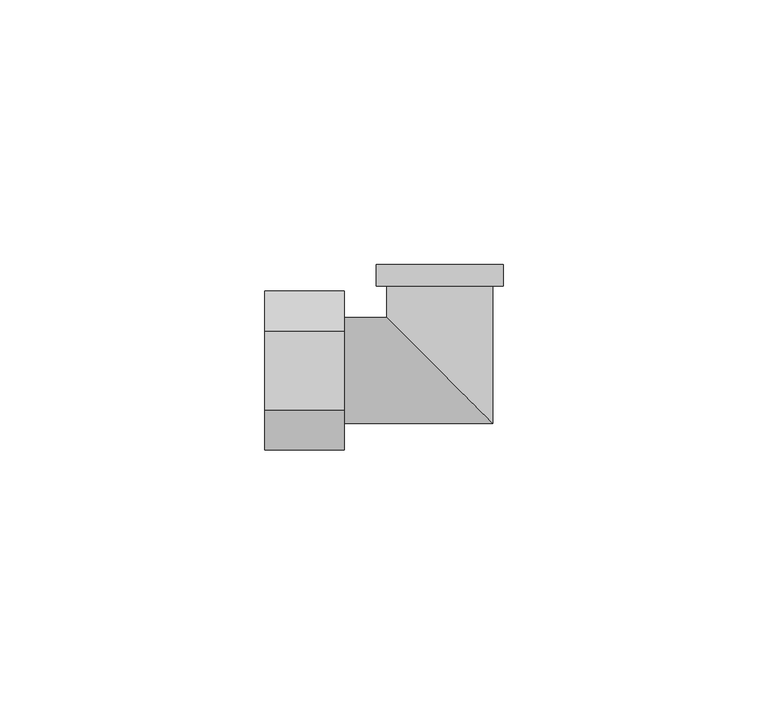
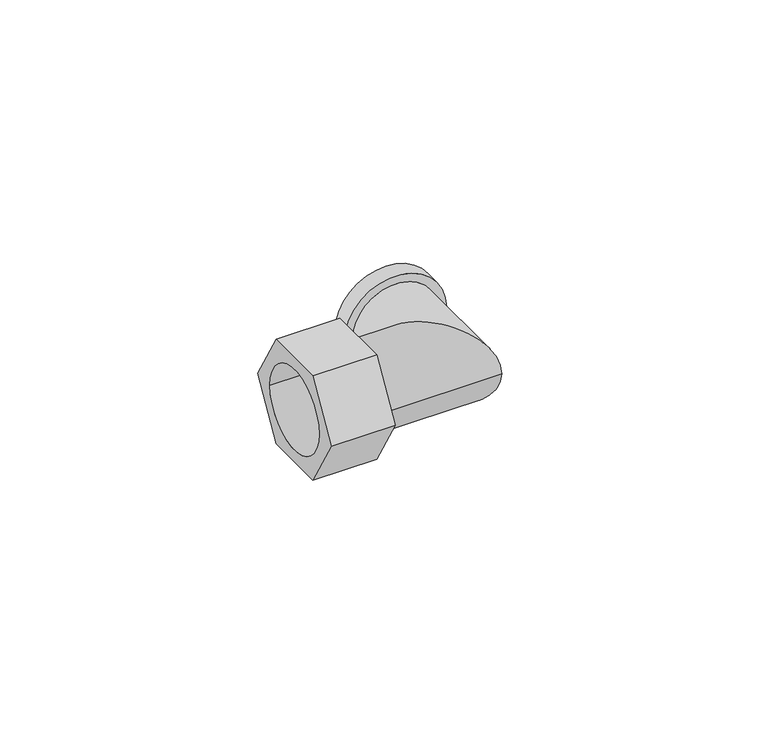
"""IFC4 building model written with IfcOpenShell, lengths in millimetres: pipe fitting geometry, БИР ПЕКС_КМП_Угольник_Резьба_Внутренняя : Угольник с внутренней резьбой_КМП."""

from ifc_helpers import new_model, si_unit, point, frame, origin, origin_2d, place, context, project, spatial, polyline, circle_curve, ellipse_curve, trimmed, segment, composite_curve, outline, extrude, source, transform, mapped, element, save
from ifc_brep_helpers import plane_surface, cylinder_surface, revolved_surface, advanced_brep


def pipe_fitting_e6d99b17(model_context):
    return source(origin(), model_context, "Body", "SolidModel", [
        extrude(outline(polyline([(-7.5, -12.9903811), (-15.0, 0.0), (-7.5, 12.9903811), (7.5, 12.9903811), (15.0, 0.0), (7.5, -12.9903811), (-7.5, -12.9903811)]), holes=[composite_curve([segment(trimmed(circle_curve(origin_2d(), 10.0), [point((-10.0, 0.0))], [point((10.0, 0.0))], True, "CARTESIAN"), True, "CONTINUOUS"), segment(trimmed(circle_curve(origin_2d(), 10.0), [point((10.0, 0.0))], [point((-10.0, 0.0))], True, "CARTESIAN"), True, "CONTINUOUS")], self_intersect=False)]), frame((-33.0, 0.0, 0.0), z_axis=(1.0, 0.0, 0.0), x_axis=(0.0, 1.0, 0.0)), (0.0, 0.0, 1.0), 15.0),
        advanced_brep(
        [(-18.0, -10.0, 0.0), (-18.0, 10.0, 0.0), (-18.0, -9.5, 0.0), (-18.0, 9.5, 0.0), (10.0, -10.0, 0.0), (-10.0, 10.0, 0.0), (-12.0, 20.0, 0.0), (12.0, 20.0, 0.0), (9.5, 20.0, 0.0), (-9.5, 20.0, 0.0), (10.0, 16.0, 0.0), (-10.0, 16.0, 0.0), (-12.0, 16.0, 0.0), (12.0, 16.0, 0.0), (9.5, -9.5, 0.0), (-9.5, 9.5, 0.0), (-9.5, 16.0, 0.0), (9.5, 16.0, 0.0)],
        [
            (0, 1, circle_curve(frame((-18.0, 0.0, 0.0), z_axis=(-1.0, 0.0, 0.0), x_axis=(0.0, 1.0, 0.0)), 10.0)),
            (1, 0, circle_curve(frame((-18.0, 0.0, 0.0), z_axis=(-1.0, 0.0, 0.0), x_axis=(0.0, 1.0, 0.0)), 10.0)),
            (2, 3, circle_curve(frame((-18.0, 0.0, 0.0), z_axis=(1.0, 0.0, 0.0), x_axis=(0.0, 1.0, 0.0)), 9.5)),
            (3, 2, circle_curve(frame((-18.0, 0.0, 0.0), z_axis=(1.0, 0.0, 0.0), x_axis=(0.0, 1.0, 0.0)), 9.5)),
            (0, 4),
            (4, 5, ellipse_curve(frame((0.0, 0.0, 0.0), z_axis=(-0.7071067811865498, -0.7071067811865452, 0.0), x_axis=(-0.7071067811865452, 0.7071067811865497, 0.0)), 14.1421356, 10.0)),
            (5, 1),
            (5, 4, ellipse_curve(frame((0.0, 0.0, 0.0), z_axis=(-0.7071067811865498, -0.7071067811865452, 0.0), x_axis=(-0.7071067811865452, 0.7071067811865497, 0.0)), 14.1421356, 10.0)),
            (6, 7, circle_curve(frame((0.0, 20.0, 0.0), z_axis=(0.0, 1.0, 0.0), x_axis=(1.0, 0.0, 0.0)), 12.0)),
            (7, 6, circle_curve(frame((0.0, 20.0, 0.0), z_axis=(0.0, 1.0, 0.0), x_axis=(1.0, 0.0, 0.0)), 12.0)),
            (8, 9, circle_curve(frame((0.0, 20.0, 0.0), z_axis=(0.0, -1.0, 0.0), x_axis=(-1.0, 0.0, 0.0)), 9.5)),
            (9, 8, circle_curve(frame((0.0, 20.0, 0.0), z_axis=(0.0, -1.0, 0.0), x_axis=(-1.0, 0.0, 0.0)), 9.5)),
            (4, 10),
            (10, 11, circle_curve(frame((0.0, 16.0, 0.0), z_axis=(0.0, -1.0, 0.0), x_axis=(-1.0, 0.0, 0.0)), 10.0)),
            (11, 5),
            (11, 10, circle_curve(frame((0.0, 16.0, 0.0), z_axis=(0.0, -1.0, 0.0), x_axis=(-1.0, 0.0, 0.0)), 10.0)),
            (12, 13, circle_curve(frame((0.0, 16.0, 0.0), z_axis=(0.0, -1.0, 0.0), x_axis=(1.0, 0.0, 0.0)), 12.0)),
            (13, 12, circle_curve(frame((0.0, 16.0, 0.0), z_axis=(0.0, -1.0, 0.0), x_axis=(1.0, 0.0, 0.0)), 12.0)),
            (12, 6),
            (7, 13),
            (2, 14),
            (14, 15, ellipse_curve(frame((0.0, 0.0, 0.0), z_axis=(0.7071067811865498, 0.7071067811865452, 0.0), x_axis=(0.7071067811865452, -0.7071067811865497, 0.0)), 13.4350288, 9.5)),
            (15, 3),
            (15, 14, ellipse_curve(frame((0.0, 0.0, 0.0), z_axis=(0.7071067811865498, 0.7071067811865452, 0.0), x_axis=(0.7071067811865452, -0.7071067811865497, 0.0)), 13.4350288, 9.5)),
            (9, 16),
            (16, 15),
            (14, 17),
            (17, 8),
        ],
        [
            plane_surface(frame((-18.0, 0.0, 0.0), z_axis=(-1.0, 0.0, 0.0), x_axis=(0.0, 0.0, 1.0))),
            cylinder_surface(frame((-18.0, 0.0, 0.0), z_axis=(-1.0, 0.0, 0.0), x_axis=(0.0, 1.0, 0.0)), 10.0),
            plane_surface(frame((0.0, 20.0, 0.0), z_axis=(0.0, 1.0, 0.0), x_axis=(0.0, 0.0, 1.0))),
            cylinder_surface(frame((0.0, 0.0, 0.0), z_axis=(0.0, -1.0, 0.0), x_axis=(-1.0, 0.0, 0.0)), 10.0),
            plane_surface(frame((12.0, 16.0, 0.0), z_axis=(0.0, -1.0, 0.0), x_axis=(0.0, 0.0, 1.0))),
            cylinder_surface(frame((0.0, 20.0, 0.0), z_axis=(0.0, -1.0, 0.0), x_axis=(1.0, 0.0, 0.0)), 12.0),
            revolved_surface(polyline([(9.5, 9.5, 0.0), (-18.0, 9.5, 0.0)]), (-18.0, 0.0, 0.0), (1.0, 0.0, 0.0)),
            revolved_surface(polyline([(-9.5, 20.0, 0.0), (-9.5, -9.5, 0.0)]), (0.0, 0.0, 0.0), (0.0, 1.0, 0.0)),
        ],
        [
            (0, [[1, 2], [3, 4]]),
            (1, [[-1, 5, 6, 7]]),
            (1, [[-2, -7, 8, -5]]),
            (2, [[9, 10], [11, 12]]),
            (3, [[-6, 13, 14, 15]]),
            (3, [[-8, -15, 16, -13]]),
            (4, [[17, 18], [-14, -16]]),
            (5, [[-17, 19, -10, 20]]),
            (5, [[-18, -20, -9, -19]]),
            (6, [[-3, 21, 22, 23]]),
            (6, [[-4, -23, 24, -21]]),
            (7, [[-12, 25, 26, -22, 27, 28]]),
            (7, [[-11, -28, -27, -24, -26, -25]]),
        ],
    ),
    ])


if __name__ == "__main__":
    model = new_model("IFC4")
    model_context = context("Model", 3, world=origin())
    ifc_project = project(units=[si_unit("LENGTHUNIT", "METRE", prefix="MILLI")], contexts=[model_context])
    site = spatial("IfcSite", under=ifc_project)
    building = spatial("IfcBuilding", under=site)
    placement = place(None, origin())
    pipe_fitting_shape = pipe_fitting_e6d99b17(model_context)
    element("IfcPipeFitting", 1, ObjectType="БИР ПЕКС_КМП_Угольник_Резьба_Внутренняя : Угольник с внутренней резьбой_КМП", at=placement, inside=building, context=model_context, shape_type="MappedRepresentation", body=[
        mapped(pipe_fitting_shape, transform((0.0, 0.0, 0.0), x_axis=(1.0, 0.0, 0.0), y_axis=(0.0, 1.0, 0.0), z_axis=(0.0, 0.0, 1.0))),
    ])
    save(model, "model.ifc")
